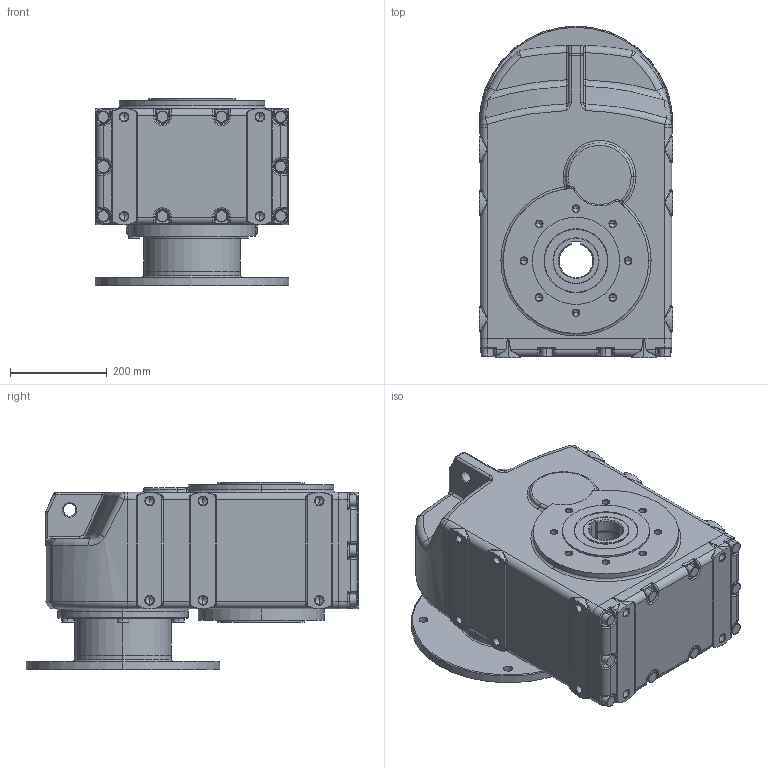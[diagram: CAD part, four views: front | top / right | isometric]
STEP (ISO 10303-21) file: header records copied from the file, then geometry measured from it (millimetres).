
FILE_DESCRIPTION (( 'STEP AP214' ), '1' );
FILE_NAME ('tnc63-f350-ap200.STEP', '2009-09-17T11:08:25', ( '' ), ( '' ), 'SwSTEP 2.0', 'SolidWorks 2003240', '' );
FILE_SCHEMA (( 'AUTOMOTIVE_DESIGN' ));
Length unit declared in the file: millimetre
Products named in the file (4): Pøíruba MTC72A kulatá _300-350-400; Skøíò TNC6_Skøíò TNC63 AP200; tnc63-f350-ap200; D6912_Šroub DIN 6912 - M14x35
Assembly tree (8 placements, depth 2):
  tnc63-f350-ap200
    Skøíò TNC6_Skøíò TNC63 AP200
    D6912_Šroub DIN 6912 - M14x35  x6
    Pøíruba MTC72A kulatá _300-350-400
Bounding box: 400 x 685 x 387 mm (x, y, z)
Volume: 62186605.5 mm3; surface area: 1513057.8 mm2
Topology: 8 solids, 8 shells, 1263 faces, 2847 edges, 1544 vertices
Faces by surface type: cylinder 425, plane 251, cone 224, bspline 176, torus 174, sphere 13
Entity records: 132801 total; most frequent: CARTESIAN_POINT 108604, DIRECTION 5102, ORIENTED_EDGE 4786, EDGE_CURVE 2393, AXIS2_PLACEMENT_3D 2130, VERTEX_POINT 1389, CIRCLE 1217, EDGE_LOOP 1172
